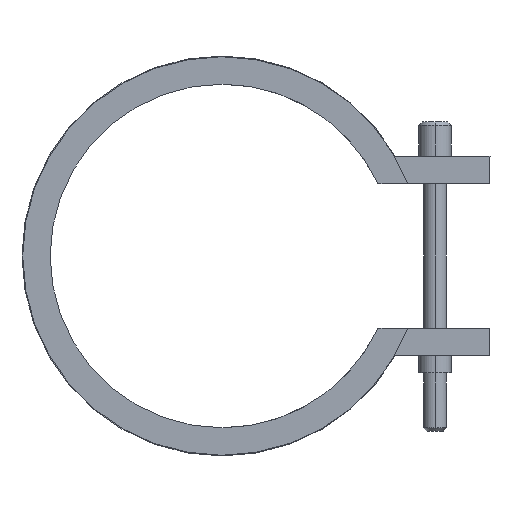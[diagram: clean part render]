
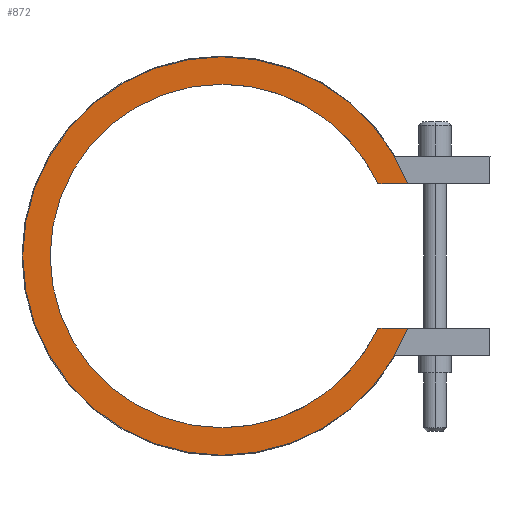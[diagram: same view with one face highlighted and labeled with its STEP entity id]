
A CAD part, left-side view. The second image highlights one B-rep face of the part: STEP entity #872.
In plain terms, the highlighted planar face has unit normal (-1, 0, 0).
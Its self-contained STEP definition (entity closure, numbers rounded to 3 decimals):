
#410=CARTESIAN_POINT('Vertex',(-12.5,-22.688,-10.5)) ;
#413=CARTESIAN_POINT('Line Origine',(-12.5,-24.86,-10.5)) ;
#417=CARTESIAN_POINT('Vertex',(-12.5,-27.032,-10.5)) ;
#463=CARTESIAN_POINT('Vertex',(-12.5,0.,-29.)) ;
#466=CARTESIAN_POINT('Axis2P3D Location',(-12.5,0.,0.)) ;
#487=CARTESIAN_POINT('Vertex',(-12.5,0.,29.)) ;
#490=CARTESIAN_POINT('Axis2P3D Location',(-12.5,0.,0.)) ;
#502=CARTESIAN_POINT('Axis2P3D Location',(-12.5,0.,0.)) ;
#506=CARTESIAN_POINT('Vertex',(-12.5,-27.032,10.5)) ;
#526=CARTESIAN_POINT('Line Origine',(-12.5,-24.86,10.5)) ;
#530=CARTESIAN_POINT('Vertex',(-12.5,-22.688,10.5)) ;
#818=CARTESIAN_POINT('Axis2P3D Location',(-12.5,0.,0.)) ;
#822=CARTESIAN_POINT('Vertex',(-12.5,0.,-25.)) ;
#845=CARTESIAN_POINT('Axis2P3D Location',(-12.5,0.,0.)) ;
#850=CARTESIAN_POINT('Axis2P3D Location',(-12.5,0.,0.)) ;
#854=CARTESIAN_POINT('Vertex',(-12.5,0.,25.)) ;
#857=CARTESIAN_POINT('Axis2P3D Location',(-12.5,0.,0.)) ;
#414=DIRECTION('Vector Direction',(0.,1.,0.)) ;
#467=DIRECTION('Axis2P3D Direction',(1.,0.,-0.)) ;
#491=DIRECTION('Axis2P3D Direction',(1.,0.,-0.)) ;
#503=DIRECTION('Axis2P3D Direction',(1.,0.,-0.)) ;
#527=DIRECTION('Vector Direction',(0.,-1.,0.)) ;
#819=DIRECTION('Axis2P3D Direction',(1.,0.,-0.)) ;
#846=DIRECTION('Axis2P3D Direction',(1.,0.,0.)) ;
#847=DIRECTION('Axis2P3D XDirection',(0.,0.,-1.)) ;
#851=DIRECTION('Axis2P3D Direction',(1.,0.,0.)) ;
#858=DIRECTION('Axis2P3D Direction',(1.,0.,0.)) ;
#468=AXIS2_PLACEMENT_3D('Circle Axis2P3D',#466,#467,$) ;
#492=AXIS2_PLACEMENT_3D('Circle Axis2P3D',#490,#491,$) ;
#504=AXIS2_PLACEMENT_3D('Circle Axis2P3D',#502,#503,$) ;
#820=AXIS2_PLACEMENT_3D('Circle Axis2P3D',#818,#819,$) ;
#848=AXIS2_PLACEMENT_3D('Plane Axis2P3D',#845,#846,#847) ;
#852=AXIS2_PLACEMENT_3D('Circle Axis2P3D',#850,#851,$) ;
#859=AXIS2_PLACEMENT_3D('Circle Axis2P3D',#857,#858,$) ;
#863=ORIENTED_EDGE('',*,*,#419,.T.) ;
#864=ORIENTED_EDGE('',*,*,#824,.T.) ;
#865=ORIENTED_EDGE('',*,*,#856,.T.) ;
#866=ORIENTED_EDGE('',*,*,#861,.T.) ;
#867=ORIENTED_EDGE('',*,*,#532,.T.) ;
#868=ORIENTED_EDGE('',*,*,#508,.F.) ;
#869=ORIENTED_EDGE('',*,*,#494,.F.) ;
#870=ORIENTED_EDGE('',*,*,#470,.F.) ;
#415=VECTOR('Line Direction',#414,1.) ;
#528=VECTOR('Line Direction',#527,1.) ;
#872=ADVANCED_FACE('14050025',(#871),#849,.F.) ;
#469=CIRCLE('generated circle',#468,29.) ;
#493=CIRCLE('generated circle',#492,29.) ;
#505=CIRCLE('generated circle',#504,29.) ;
#821=CIRCLE('generated circle',#820,25.) ;
#853=CIRCLE('generated circle',#852,25.) ;
#860=CIRCLE('generated circle',#859,25.) ;
#419=EDGE_CURVE('',#418,#411,#416,.T.) ;
#470=EDGE_CURVE('',#418,#464,#469,.T.) ;
#494=EDGE_CURVE('',#464,#488,#493,.T.) ;
#508=EDGE_CURVE('',#488,#507,#505,.T.) ;
#532=EDGE_CURVE('',#531,#507,#529,.T.) ;
#824=EDGE_CURVE('',#411,#823,#821,.T.) ;
#856=EDGE_CURVE('',#823,#855,#853,.T.) ;
#861=EDGE_CURVE('',#855,#531,#860,.T.) ;
#862=EDGE_LOOP('',(#863,#864,#865,#866,#867,#868,#869,#870)) ;
#871=FACE_OUTER_BOUND('',#862,.T.) ;
#416=LINE('Line',#413,#415) ;
#529=LINE('Line',#526,#528) ;
#849=PLANE('Plane',#848) ;
#411=VERTEX_POINT('',#410) ;
#418=VERTEX_POINT('',#417) ;
#464=VERTEX_POINT('',#463) ;
#488=VERTEX_POINT('',#487) ;
#507=VERTEX_POINT('',#506) ;
#531=VERTEX_POINT('',#530) ;
#823=VERTEX_POINT('',#822) ;
#855=VERTEX_POINT('',#854) ;
